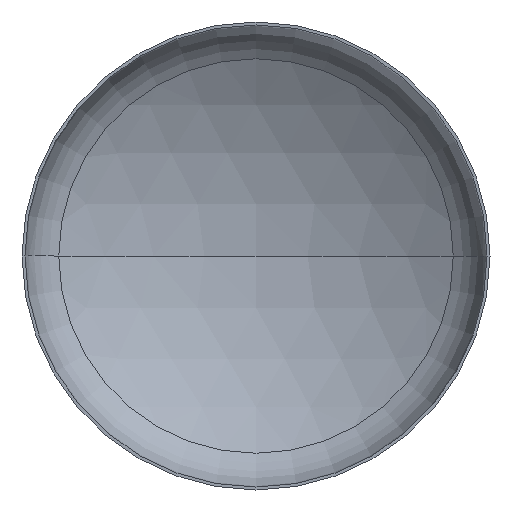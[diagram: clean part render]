
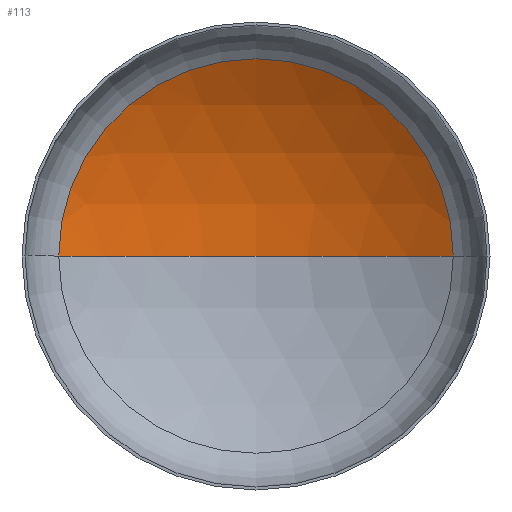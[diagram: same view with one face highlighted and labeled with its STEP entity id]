
A CAD part, front view. The second image highlights one B-rep face of the part: STEP entity #113.
In plain terms, the highlighted spherical face has radius 1520 mm.
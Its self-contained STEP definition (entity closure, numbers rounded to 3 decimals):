
#10 = VERTEX_POINT ( 'NONE', #359 ) ;
#12 = CARTESIAN_POINT ( 'NONE',  ( 0., -1005.464, 0. ) ) ;
#14 = DIRECTION ( 'NONE',  ( 0., 0., 1. ) ) ;
#27 = AXIS2_PLACEMENT_3D ( 'NONE', #12, #227, #46 ) ;
#33 = AXIS2_PLACEMENT_3D ( 'NONE', #209, #14, #277 ) ;
#37 = AXIS2_PLACEMENT_3D ( 'NONE', #223, #219, #220 ) ;
#39 = AXIS2_PLACEMENT_3D ( 'NONE', #311, #307, #228 ) ;
#40 = EDGE_LOOP ( 'NONE', ( #52, #164, #314 ) ) ;
#41 = CARTESIAN_POINT ( 'NONE',  ( -800.78, 286.492, 0. ) ) ;
#46 = DIRECTION ( 'NONE',  ( -1., 0., 0. ) ) ;
#52 = ORIENTED_EDGE ( 'NONE', *, *, #84, .F. ) ;
#71 = VERTEX_POINT ( 'NONE', #323 ) ;
#77 = EDGE_CURVE ( 'NONE', #71, #138, #289, .T. ) ;
#79 = EDGE_CURVE ( 'NONE', #10, #71, #230, .T. ) ;
#84 = EDGE_CURVE ( 'NONE', #10, #138, #407, .T. ) ;
#113 = ADVANCED_FACE ( 'NONE', ( #222 ), #162, .F. ) ;
#138 = VERTEX_POINT ( 'NONE', #41 ) ;
#162 = SPHERICAL_SURFACE ( 'NONE', #27, 1520. ) ;
#164 = ORIENTED_EDGE ( 'NONE', *, *, #79, .T. ) ;
#209 = CARTESIAN_POINT ( 'NONE',  ( 0., -1005.464, 0. ) ) ;
#219 = DIRECTION ( 'NONE',  ( 0., 0., -1. ) ) ;
#220 = DIRECTION ( 'NONE',  ( -1., 0., 0. ) ) ;
#222 = FACE_OUTER_BOUND ( 'NONE', #40, .T. ) ;
#223 = CARTESIAN_POINT ( 'NONE',  ( 0., -1005.464, 0. ) ) ;
#227 = DIRECTION ( 'NONE',  ( 0., 0., -1. ) ) ;
#228 = DIRECTION ( 'NONE',  ( 1., 0., 0. ) ) ;
#230 = CIRCLE ( 'NONE', #37, 1520. ) ;
#277 = DIRECTION ( 'NONE',  ( 1., 0., 0. ) ) ;
#289 = CIRCLE ( 'NONE', #39, 800.78 ) ;
#307 = DIRECTION ( 'NONE',  ( 0., -1., 0. ) ) ;
#311 = CARTESIAN_POINT ( 'NONE',  ( 0., 286.492, 0. ) ) ;
#314 = ORIENTED_EDGE ( 'NONE', *, *, #77, .T. ) ;
#323 = CARTESIAN_POINT ( 'NONE',  ( 800.78, 286.492, 0. ) ) ;
#359 = CARTESIAN_POINT ( 'NONE',  ( 0., 514.536, 0. ) ) ;
#407 = CIRCLE ( 'NONE', #33, 1520. ) ;
